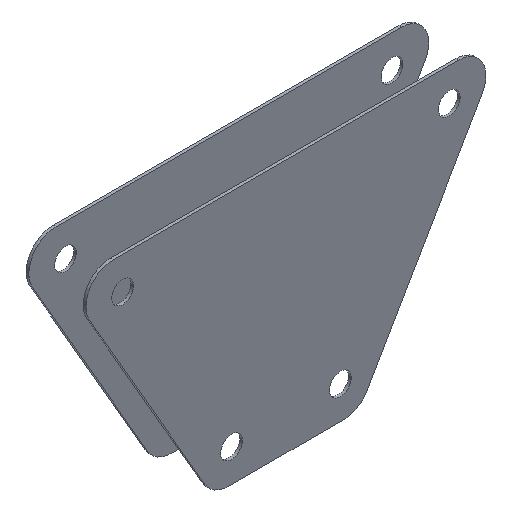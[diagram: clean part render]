
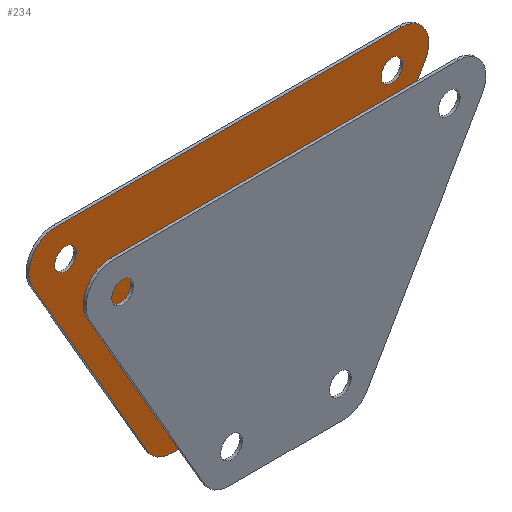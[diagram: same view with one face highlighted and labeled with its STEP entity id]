
A CAD part, isometric view. The second image highlights one B-rep face of the part: STEP entity #234.
In plain terms, the highlighted planar face has unit normal (0, -1, 0).
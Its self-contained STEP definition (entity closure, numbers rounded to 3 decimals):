
#57=CARTESIAN_POINT('Axis2P3D Location',(30.,5.,40.641)) ;
#61=CARTESIAN_POINT('Vertex',(28.,5.,40.641)) ;
#63=CARTESIAN_POINT('Vertex',(32.,5.,40.641)) ;
#92=CARTESIAN_POINT('Axis2P3D Location',(0.,5.,0.)) ;
#97=CARTESIAN_POINT('Line Origine',(0.,5.,46.641)) ;
#101=CARTESIAN_POINT('Vertex',(-31.732,5.,46.641)) ;
#103=CARTESIAN_POINT('Vertex',(31.732,5.,46.641)) ;
#106=CARTESIAN_POINT('Axis2P3D Location',(-31.732,5.,41.641)) ;
#110=CARTESIAN_POINT('Vertex',(-36.062,5.,39.141)) ;
#113=CARTESIAN_POINT('Line Origine',(-25.485,5.,20.821)) ;
#117=CARTESIAN_POINT('Vertex',(-14.907,5.,2.5)) ;
#120=CARTESIAN_POINT('Axis2P3D Location',(-10.577,5.,5.)) ;
#124=CARTESIAN_POINT('Vertex',(-10.577,5.,0.)) ;
#127=CARTESIAN_POINT('Line Origine',(-5.289,5.,0.)) ;
#131=CARTESIAN_POINT('Vertex',(0.,5.,0.)) ;
#134=CARTESIAN_POINT('Line Origine',(5.289,5.,0.)) ;
#138=CARTESIAN_POINT('Vertex',(10.577,5.,0.)) ;
#141=CARTESIAN_POINT('Axis2P3D Location',(10.577,5.,5.)) ;
#145=CARTESIAN_POINT('Vertex',(14.907,5.,2.5)) ;
#148=CARTESIAN_POINT('Line Origine',(25.485,5.,20.821)) ;
#152=CARTESIAN_POINT('Vertex',(36.062,5.,39.141)) ;
#155=CARTESIAN_POINT('Axis2P3D Location',(31.732,5.,41.641)) ;
#171=CARTESIAN_POINT('Axis2P3D Location',(30.,5.,40.641)) ;
#180=CARTESIAN_POINT('Axis2P3D Location',(-30.,5.,40.641)) ;
#184=CARTESIAN_POINT('Vertex',(-32.,5.,40.641)) ;
#186=CARTESIAN_POINT('Vertex',(-28.,5.,40.641)) ;
#189=CARTESIAN_POINT('Axis2P3D Location',(-30.,5.,40.641)) ;
#198=CARTESIAN_POINT('Axis2P3D Location',(-10.,5.,6.)) ;
#202=CARTESIAN_POINT('Vertex',(-12.,5.,6.)) ;
#204=CARTESIAN_POINT('Vertex',(-8.,5.,6.)) ;
#207=CARTESIAN_POINT('Axis2P3D Location',(-10.,5.,6.)) ;
#216=CARTESIAN_POINT('Axis2P3D Location',(10.,5.,6.)) ;
#220=CARTESIAN_POINT('Vertex',(12.,5.,6.)) ;
#222=CARTESIAN_POINT('Vertex',(8.,5.,6.)) ;
#225=CARTESIAN_POINT('Axis2P3D Location',(10.,5.,6.)) ;
#58=DIRECTION('Axis2P3D Direction',(0.,1.,0.)) ;
#93=DIRECTION('Axis2P3D Direction',(0.,1.,0.)) ;
#94=DIRECTION('Axis2P3D XDirection',(-1.,0.,0.)) ;
#98=DIRECTION('Vector Direction',(-1.,0.,0.)) ;
#107=DIRECTION('Axis2P3D Direction',(0.,1.,0.)) ;
#114=DIRECTION('Vector Direction',(0.5,0.,-0.866)) ;
#121=DIRECTION('Axis2P3D Direction',(0.,1.,0.)) ;
#128=DIRECTION('Vector Direction',(-1.,0.,0.)) ;
#135=DIRECTION('Vector Direction',(1.,0.,0.)) ;
#142=DIRECTION('Axis2P3D Direction',(0.,1.,0.)) ;
#149=DIRECTION('Vector Direction',(-0.5,0.,-0.866)) ;
#156=DIRECTION('Axis2P3D Direction',(0.,1.,0.)) ;
#172=DIRECTION('Axis2P3D Direction',(0.,1.,0.)) ;
#181=DIRECTION('Axis2P3D Direction',(0.,1.,0.)) ;
#190=DIRECTION('Axis2P3D Direction',(0.,1.,0.)) ;
#199=DIRECTION('Axis2P3D Direction',(0.,1.,0.)) ;
#208=DIRECTION('Axis2P3D Direction',(0.,1.,0.)) ;
#217=DIRECTION('Axis2P3D Direction',(0.,1.,0.)) ;
#226=DIRECTION('Axis2P3D Direction',(0.,1.,0.)) ;
#59=AXIS2_PLACEMENT_3D('Circle Axis2P3D',#57,#58,$) ;
#95=AXIS2_PLACEMENT_3D('Plane Axis2P3D',#92,#93,#94) ;
#108=AXIS2_PLACEMENT_3D('Circle Axis2P3D',#106,#107,$) ;
#122=AXIS2_PLACEMENT_3D('Circle Axis2P3D',#120,#121,$) ;
#143=AXIS2_PLACEMENT_3D('Circle Axis2P3D',#141,#142,$) ;
#157=AXIS2_PLACEMENT_3D('Circle Axis2P3D',#155,#156,$) ;
#173=AXIS2_PLACEMENT_3D('Circle Axis2P3D',#171,#172,$) ;
#182=AXIS2_PLACEMENT_3D('Circle Axis2P3D',#180,#181,$) ;
#191=AXIS2_PLACEMENT_3D('Circle Axis2P3D',#189,#190,$) ;
#200=AXIS2_PLACEMENT_3D('Circle Axis2P3D',#198,#199,$) ;
#209=AXIS2_PLACEMENT_3D('Circle Axis2P3D',#207,#208,$) ;
#218=AXIS2_PLACEMENT_3D('Circle Axis2P3D',#216,#217,$) ;
#227=AXIS2_PLACEMENT_3D('Circle Axis2P3D',#225,#226,$) ;
#161=ORIENTED_EDGE('',*,*,#105,.F.) ;
#162=ORIENTED_EDGE('',*,*,#112,.F.) ;
#163=ORIENTED_EDGE('',*,*,#119,.F.) ;
#164=ORIENTED_EDGE('',*,*,#126,.F.) ;
#165=ORIENTED_EDGE('',*,*,#133,.F.) ;
#166=ORIENTED_EDGE('',*,*,#140,.F.) ;
#167=ORIENTED_EDGE('',*,*,#147,.F.) ;
#168=ORIENTED_EDGE('',*,*,#154,.F.) ;
#169=ORIENTED_EDGE('',*,*,#159,.F.) ;
#177=ORIENTED_EDGE('',*,*,#65,.T.) ;
#178=ORIENTED_EDGE('',*,*,#175,.T.) ;
#195=ORIENTED_EDGE('',*,*,#188,.T.) ;
#196=ORIENTED_EDGE('',*,*,#193,.T.) ;
#213=ORIENTED_EDGE('',*,*,#206,.T.) ;
#214=ORIENTED_EDGE('',*,*,#211,.T.) ;
#231=ORIENTED_EDGE('',*,*,#224,.T.) ;
#232=ORIENTED_EDGE('',*,*,#229,.T.) ;
#179=FACE_BOUND('',#176,.T.) ;
#197=FACE_BOUND('',#194,.T.) ;
#215=FACE_BOUND('',#212,.T.) ;
#233=FACE_BOUND('',#230,.T.) ;
#99=VECTOR('Line Direction',#98,1.) ;
#115=VECTOR('Line Direction',#114,1.) ;
#129=VECTOR('Line Direction',#128,1.) ;
#136=VECTOR('Line Direction',#135,1.) ;
#150=VECTOR('Line Direction',#149,1.) ;
#234=ADVANCED_FACE('Corps principal',(#170,#179,#197,#215,#233),#96,.F.) ;
#60=CIRCLE('generated circle',#59,2.) ;
#109=CIRCLE('generated circle',#108,5.) ;
#123=CIRCLE('generated circle',#122,5.) ;
#144=CIRCLE('generated circle',#143,5.) ;
#158=CIRCLE('generated circle',#157,5.) ;
#174=CIRCLE('generated circle',#173,2.) ;
#183=CIRCLE('generated circle',#182,2.) ;
#192=CIRCLE('generated circle',#191,2.) ;
#201=CIRCLE('generated circle',#200,2.) ;
#210=CIRCLE('generated circle',#209,2.) ;
#219=CIRCLE('generated circle',#218,2.) ;
#228=CIRCLE('generated circle',#227,2.) ;
#65=EDGE_CURVE('',#62,#64,#60,.T.) ;
#105=EDGE_CURVE('',#102,#104,#100,.F.) ;
#112=EDGE_CURVE('',#111,#102,#109,.T.) ;
#119=EDGE_CURVE('',#118,#111,#116,.F.) ;
#126=EDGE_CURVE('',#125,#118,#123,.T.) ;
#133=EDGE_CURVE('',#132,#125,#130,.T.) ;
#140=EDGE_CURVE('',#139,#132,#137,.F.) ;
#147=EDGE_CURVE('',#146,#139,#144,.T.) ;
#154=EDGE_CURVE('',#153,#146,#151,.T.) ;
#159=EDGE_CURVE('',#104,#153,#158,.T.) ;
#175=EDGE_CURVE('',#64,#62,#174,.T.) ;
#188=EDGE_CURVE('',#185,#187,#183,.T.) ;
#193=EDGE_CURVE('',#187,#185,#192,.T.) ;
#206=EDGE_CURVE('',#203,#205,#201,.T.) ;
#211=EDGE_CURVE('',#205,#203,#210,.T.) ;
#224=EDGE_CURVE('',#221,#223,#219,.T.) ;
#229=EDGE_CURVE('',#223,#221,#228,.T.) ;
#160=EDGE_LOOP('',(#161,#162,#163,#164,#165,#166,#167,#168,#169)) ;
#176=EDGE_LOOP('',(#177,#178)) ;
#194=EDGE_LOOP('',(#195,#196)) ;
#212=EDGE_LOOP('',(#213,#214)) ;
#230=EDGE_LOOP('',(#231,#232)) ;
#170=FACE_OUTER_BOUND('',#160,.T.) ;
#100=LINE('Line',#97,#99) ;
#116=LINE('Line',#113,#115) ;
#130=LINE('Line',#127,#129) ;
#137=LINE('Line',#134,#136) ;
#151=LINE('Line',#148,#150) ;
#96=PLANE('',#95) ;
#62=VERTEX_POINT('',#61) ;
#64=VERTEX_POINT('',#63) ;
#102=VERTEX_POINT('',#101) ;
#104=VERTEX_POINT('',#103) ;
#111=VERTEX_POINT('',#110) ;
#118=VERTEX_POINT('',#117) ;
#125=VERTEX_POINT('',#124) ;
#132=VERTEX_POINT('',#131) ;
#139=VERTEX_POINT('',#138) ;
#146=VERTEX_POINT('',#145) ;
#153=VERTEX_POINT('',#152) ;
#185=VERTEX_POINT('',#184) ;
#187=VERTEX_POINT('',#186) ;
#203=VERTEX_POINT('',#202) ;
#205=VERTEX_POINT('',#204) ;
#221=VERTEX_POINT('',#220) ;
#223=VERTEX_POINT('',#222) ;
